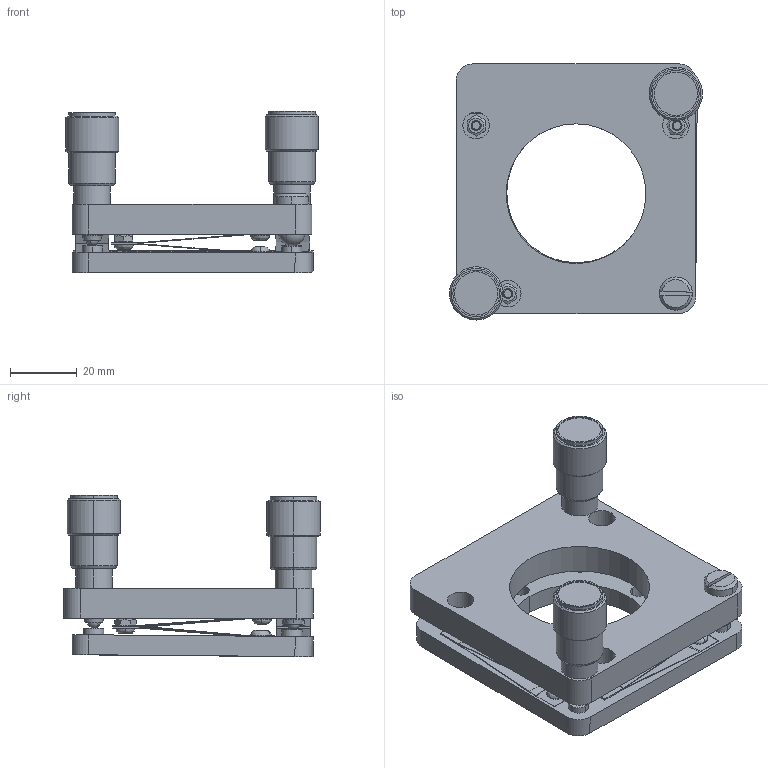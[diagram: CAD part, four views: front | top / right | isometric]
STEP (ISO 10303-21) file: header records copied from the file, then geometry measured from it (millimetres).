
FILE_DESCRIPTION (( 'STEP AP203' ), '1' );
FILE_NAME ('5OM61-2be logo.STEP', '2008-03-31T19:12:22', ( 'STANDA' ), ( '' ), 'SwSTEP 2.0', 'SolidWorks 2003240', '' );
FILE_SCHEMA (( 'CONFIG_CONTROL_DESIGN' ));
Length unit declared in the file: millimetre
Products named in the file (1): 5OM61-2be logo
Bounding box: 76 x 77 x 48.55 mm (x, y, z)
Volume: 65449.7 mm3; surface area: 32878.5 mm2
Topology: 1 solids, 1 shells, 387 faces, 983 edges, 639 vertices
Faces by surface type: plane 177, cylinder 121, cone 65, bspline 24
Entity records: 22571 total; most frequent: CARTESIAN_POINT 13299, ORIENTED_EDGE 1938, DIRECTION 1838, EDGE_CURVE 969, AXIS2_PLACEMENT_3D 688, VERTEX_POINT 639, EDGE_LOOP 480, VECTOR 462
